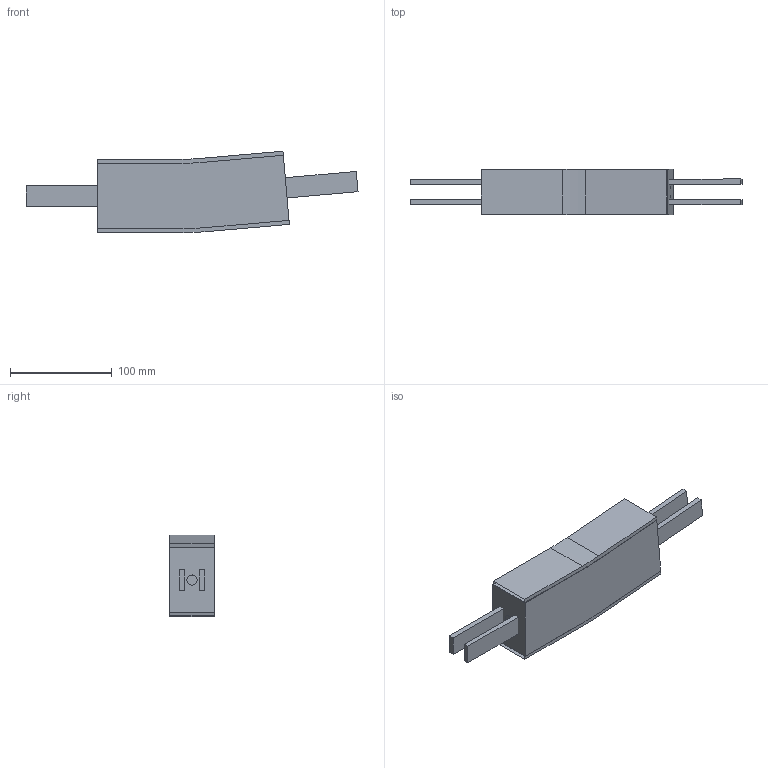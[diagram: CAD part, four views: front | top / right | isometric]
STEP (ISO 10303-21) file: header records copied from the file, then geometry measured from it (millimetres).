
FILE_DESCRIPTION(/* description */ ('Vertikaler Gleitbogen, 5°, R300'),/* implementation_level */ '2;1');
FILE_NAME(/* name */ 'T:\lzb0\FSBV 05R300_(O)_(D01B02).stp',/* time_stamp */ '2024-09-03T08:39:12+02:00',/* author */ ('lzb0'),/* organization */ ('modular automation GmbH'),/* preprocessor_version */ 'ST-DEVELOPER v18.1',/* originating_system */ 'Autodesk Inventor 2021',/* authorisation */ '');
FILE_SCHEMA (('AUTOMOTIVE_DESIGN { 1 0 10303 214 3 1 1 }'));
Length unit declared in the file: millimetre
Products named in the file (1): FSBV 05R300
Bounding box: 326.45 x 45 x 80.18 mm (x, y, z)
Volume: 593873.8 mm3; surface area: 111614.6 mm2
Topology: 5 solids, 9 shells, 52 faces, 126 edges, 84 vertices
Faces by surface type: plane 44, cylinder 8
Full cylindrical faces by diameter (mm): 10 x2
Entity records: 1598 total; most frequent: CARTESIAN_POINT 270, DIRECTION 250, ORIENTED_EDGE 232, EDGE_CURVE 126, LINE 110, VECTOR 110, VERTEX_POINT 84, AXIS2_PLACEMENT_3D 70
